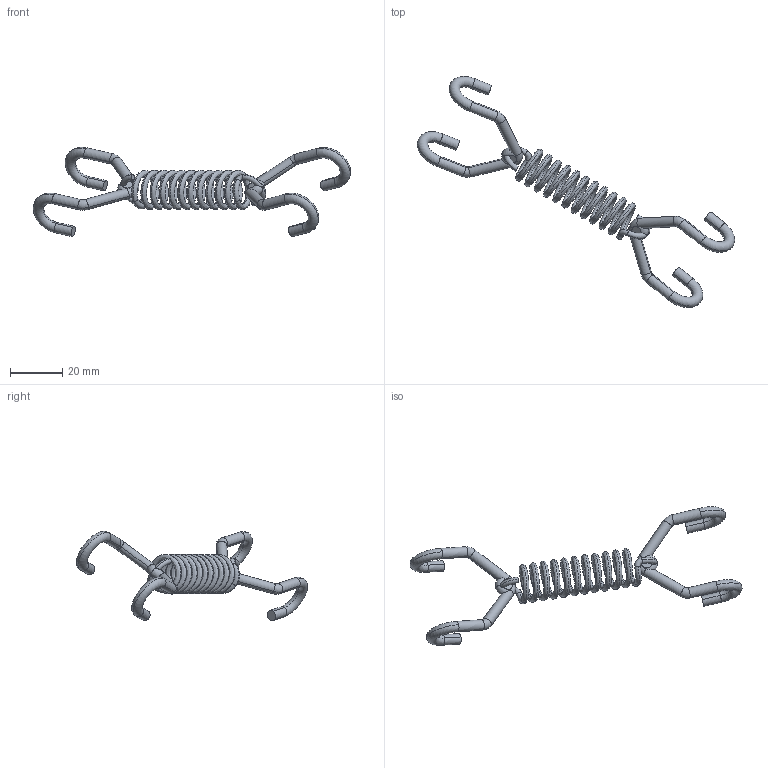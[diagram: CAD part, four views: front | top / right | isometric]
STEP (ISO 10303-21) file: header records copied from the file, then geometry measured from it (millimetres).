
FILE_DESCRIPTION (( 'STEP AP214' ), '1' );
FILE_NAME ('IRB365_1.5-1300_OmniCore_rev00_SPRING_UNIT_3_CAD.step', '2025-09-09T11:52:27', ( '' ), ( '' ), 'SwSTEP 2.0', 'SolidWorks 2024', '' );
FILE_SCHEMA (( 'AUTOMOTIVE_DESIGN' ));
Length unit declared in the file: millimetre
Products named in the file (1): IRB365_1.5-1300_OmniCore_rev00_SPRING_UNIT_3_CAD
Bounding box: 121.26 x 88.33 x 34.06 mm (x, y, z)
Volume: 5107.5 mm3; surface area: 6623.6 mm2
Topology: 1 solids, 1 shells, 74 faces, 182 edges, 110 vertices
Faces by surface type: torus 38, cylinder 24, plane 10, bspline 2
Entity records: 5116 total; most frequent: CARTESIAN_POINT 2500, DIRECTION 422, ORIENTED_EDGE 364, AXIS2_PLACEMENT_3D 199, EDGE_CURVE 182, CIRCLE 126, VERTEX_POINT 110, UNCERTAINTY_MEASURE_WITH_UNIT 76
